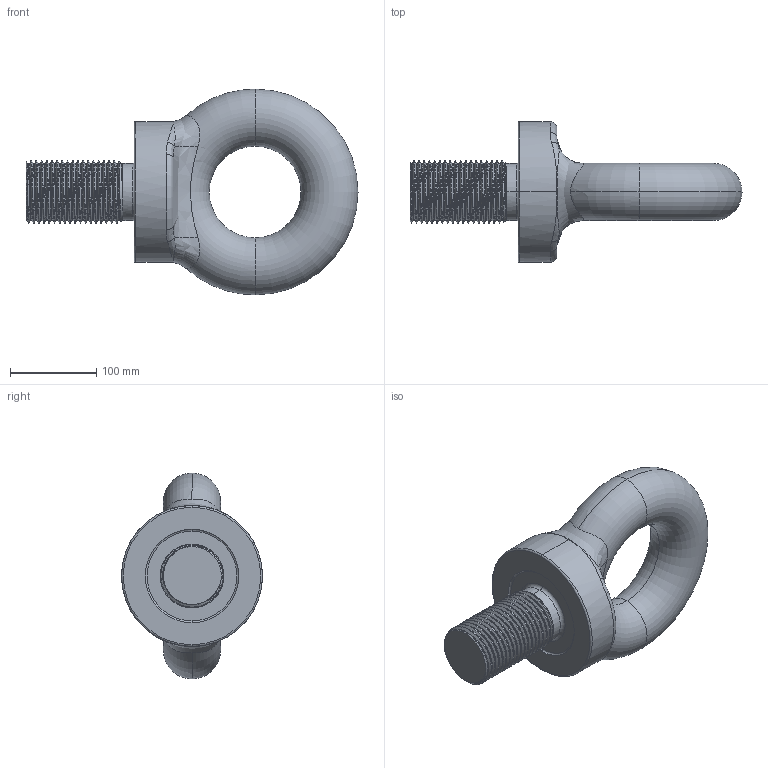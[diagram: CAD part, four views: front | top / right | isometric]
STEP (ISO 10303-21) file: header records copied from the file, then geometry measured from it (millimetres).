
FILE_DESCRIPTION (( 'STEP AP203' ), '1' );
FILE_NAME ('EBMC72.STEP', '2014-02-28T02:12:44', ( '' ), ( '' ), 'SwSTEP 2.0', 'SolidWorks 2012', '' );
FILE_SCHEMA (( 'CONFIG_CONTROL_DESIGN' ));
Length unit declared in the file: millimetre
Products named in the file (1): EBMC72
Bounding box: 384 x 163 x 238 mm (x, y, z)
Volume: 3201001.2 mm3; surface area: 192422.4 mm2
Topology: 1 solids, 1 shells, 82 faces, 224 edges, 136 vertices
Faces by surface type: cylinder 40, bspline 20, torus 12, cone 5, plane 5
Entity records: 16929 total; most frequent: CARTESIAN_POINT 15190, ORIENTED_EDGE 432, DIRECTION 268, EDGE_CURVE 216, VERTEX_POINT 136, AXIS2_PLACEMENT_3D 113, EDGE_LOOP 84, FACE_OUTER_BOUND 82
